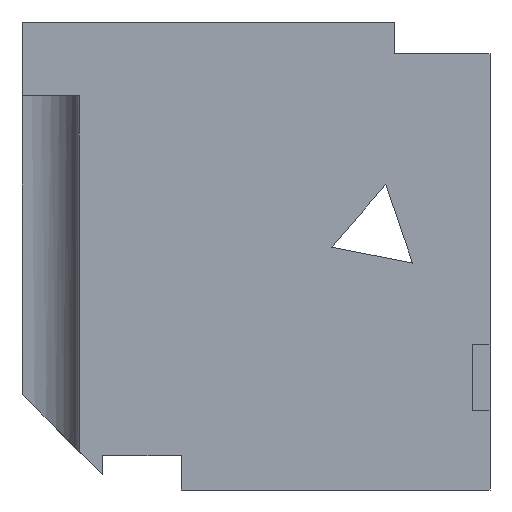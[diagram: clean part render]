
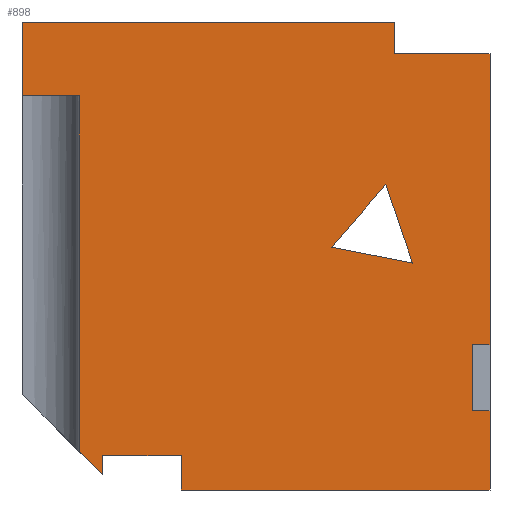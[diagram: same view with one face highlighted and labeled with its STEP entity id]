
A CAD part, front view. The second image highlights one B-rep face of the part: STEP entity #898.
In plain terms, the highlighted planar face has unit normal (0, -1, 0).
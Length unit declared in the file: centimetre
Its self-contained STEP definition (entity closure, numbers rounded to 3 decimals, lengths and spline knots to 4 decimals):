
#2 = CARTESIAN_POINT ( 'NONE',  ( 961.7942, 0., 310.3554 ) ) ;
#4 = CARTESIAN_POINT ( 'NONE',  ( 834.6252, 0., 484.993 ) ) ;
#31 = CARTESIAN_POINT ( 'NONE',  ( 0., 0., 204.8096 ) ) ;
#34 = DIRECTION ( 'NONE',  ( -0.656, 0., -0.754 ) ) ;
#37 = DIRECTION ( 'NONE',  ( 0.707, 0., -0.707 ) ) ;
#39 = CARTESIAN_POINT ( 'NONE',  ( 0., 0., 842.0141 ) ) ;
#44 = EDGE_CURVE ( 'NONE', #98, #866, #340, .T. ) ;
#53 = EDGE_CURVE ( 'NONE', #219, #1057, #792, .T. ) ;
#59 = VECTOR ( 'NONE', #169, 100. ) ;
#71 = LINE ( 'NONE', #512, #353 ) ;
#83 = FACE_BOUND ( 'NONE', #859, .T. ) ;
#98 = VERTEX_POINT ( 'NONE', #1025 ) ;
#100 = CARTESIAN_POINT ( 'NONE',  ( 0., 0., 1000. ) ) ;
#101 = EDGE_CURVE ( 'NONE', #1180, #519, #153, .T. ) ;
#107 = CARTESIAN_POINT ( 'NONE',  ( 0., 0., 1000. ) ) ;
#117 = EDGE_CURVE ( 'NONE', #773, #236, #474, .T. ) ;
#118 = ORIENTED_EDGE ( 'NONE', *, *, #546, .F. ) ;
#131 = VERTEX_POINT ( 'NONE', #2 ) ;
#135 = ORIENTED_EDGE ( 'NONE', *, *, #1302, .T. ) ;
#142 = CARTESIAN_POINT ( 'NONE',  ( 1000., 0., 0. ) ) ;
#153 = LINE ( 'NONE', #915, #1028 ) ;
#159 = VERTEX_POINT ( 'NONE', #107 ) ;
#169 = DIRECTION ( 'NONE',  ( 0., 0., -1. ) ) ;
#174 = LINE ( 'NONE', #1193, #221 ) ;
#183 = EDGE_CURVE ( 'NONE', #885, #611, #529, .T. ) ;
#193 = VECTOR ( 'NONE', #218, 100. ) ;
#218 = DIRECTION ( 'NONE',  ( 0., 0., -1. ) ) ;
#219 = VERTEX_POINT ( 'NONE', #760 ) ;
#221 = VECTOR ( 'NONE', #1396, 100. ) ;
#222 = CARTESIAN_POINT ( 'NONE',  ( 0., 0., 1000. ) ) ;
#235 = DIRECTION ( 'NONE',  ( -0.325, 0., 0.946 ) ) ;
#236 = VERTEX_POINT ( 'NONE', #1212 ) ;
#252 = LINE ( 'NONE', #31, #616 ) ;
#258 = DIRECTION ( 'NONE',  ( 0., 0., -1. ) ) ;
#317 = LINE ( 'NONE', #1207, #445 ) ;
#318 = EDGE_CURVE ( 'NONE', #611, #722, #1347, .T. ) ;
#340 = LINE ( 'NONE', #786, #486 ) ;
#342 = CARTESIAN_POINT ( 'NONE',  ( 961.7942, 0., 310.3554 ) ) ;
#344 = EDGE_CURVE ( 'NONE', #456, #131, #1356, .T. ) ;
#347 = DIRECTION ( 'NONE',  ( 1., 0., 0. ) ) ;
#353 = VECTOR ( 'NONE', #958, 100. ) ;
#368 = EDGE_CURVE ( 'NONE', #1297, #1040, #252, .T. ) ;
#374 = ORIENTED_EDGE ( 'NONE', *, *, #183, .T. ) ;
#383 = LINE ( 'NONE', #717, #964 ) ;
#410 = EDGE_LOOP ( 'NONE', ( #1058, #1395, #374, #893, #1235, #827, #504, #1194, #950, #1290, #713, #1368, #118, #925, #966, #135 ) ) ;
#412 = EDGE_CURVE ( 'NONE', #722, #946, #944, .T. ) ;
#414 = CARTESIAN_POINT ( 'NONE',  ( 1000., 0., 169.1024 ) ) ;
#424 = PLANE ( 'NONE',  #868 ) ;
#445 = VECTOR ( 'NONE', #1219, 100. ) ;
#456 = VERTEX_POINT ( 'NONE', #612 ) ;
#462 = EDGE_CURVE ( 'NONE', #953, #456, #174, .T. ) ;
#474 = LINE ( 'NONE', #922, #193 ) ;
#478 = DIRECTION ( 'NONE',  ( 0., 0., -1. ) ) ;
#486 = VECTOR ( 'NONE', #347, 100. ) ;
#490 = DIRECTION ( 'NONE',  ( 0.982, 0., -0.191 ) ) ;
#504 = ORIENTED_EDGE ( 'NONE', *, *, #44, .F. ) ;
#510 = CARTESIAN_POINT ( 'NONE',  ( 172.2325, 0., 0. ) ) ;
#512 = CARTESIAN_POINT ( 'NONE',  ( 0., 0., 1000. ) ) ;
#519 = VERTEX_POINT ( 'NONE', #738 ) ;
#529 = LINE ( 'NONE', #976, #965 ) ;
#546 = EDGE_CURVE ( 'NONE', #159, #773, #71, .T. ) ;
#559 = CARTESIAN_POINT ( 'NONE',  ( 172.2325, 0., 32.5771 ) ) ;
#562 = EDGE_CURVE ( 'NONE', #159, #1057, #1101, .T. ) ;
#590 = VECTOR ( 'NONE', #758, 100. ) ;
#598 = CARTESIAN_POINT ( 'NONE',  ( 796.13, 0., 1000. ) ) ;
#605 = LINE ( 'NONE', #1051, #664 ) ;
#611 = VERTEX_POINT ( 'NONE', #980 ) ;
#612 = CARTESIAN_POINT ( 'NONE',  ( 1000., 0., 310.3554 ) ) ;
#616 = VECTOR ( 'NONE', #37, 100. ) ;
#663 = ORIENTED_EDGE ( 'NONE', *, *, #1102, .F. ) ;
#664 = VECTOR ( 'NONE', #490, 100. ) ;
#670 = EDGE_CURVE ( 'NONE', #866, #946, #383, .T. ) ;
#713 = ORIENTED_EDGE ( 'NONE', *, *, #825, .F. ) ;
#717 = CARTESIAN_POINT ( 'NONE',  ( 1000., 0., 1000. ) ) ;
#722 = VERTEX_POINT ( 'NONE', #1375 ) ;
#738 = CARTESIAN_POINT ( 'NONE',  ( 661.3159, 0., 518.7766 ) ) ;
#743 = LINE ( 'NONE', #510, #844 ) ;
#748 = DIRECTION ( 'NONE',  ( 0., 0., 1. ) ) ;
#752 = VECTOR ( 'NONE', #805, 100. ) ;
#758 = DIRECTION ( 'NONE',  ( 0., 0., -1. ) ) ;
#760 = CARTESIAN_POINT ( 'NONE',  ( 122.5717, 0., 842.0141 ) ) ;
#773 = VERTEX_POINT ( 'NONE', #598 ) ;
#786 = CARTESIAN_POINT ( 'NONE',  ( 961.7942, 0., 169.1024 ) ) ;
#792 = LINE ( 'NONE', #1238, #752 ) ;
#804 = CARTESIAN_POINT ( 'NONE',  ( 1000., 0., 932.2743 ) ) ;
#805 = DIRECTION ( 'NONE',  ( -1., 0., 0. ) ) ;
#821 = CARTESIAN_POINT ( 'NONE',  ( 122.5717, 0., 842.0141 ) ) ;
#825 = EDGE_CURVE ( 'NONE', #236, #953, #317, .T. ) ;
#827 = ORIENTED_EDGE ( 'NONE', *, *, #670, .F. ) ;
#828 = LINE ( 'NONE', #929, #912 ) ;
#830 = CARTESIAN_POINT ( 'NONE',  ( 122.5717, 0., 82.2379 ) ) ;
#844 = VECTOR ( 'NONE', #1401, 100. ) ;
#859 = EDGE_LOOP ( 'NONE', ( #1373, #1273, #663 ) ) ;
#866 = VERTEX_POINT ( 'NONE', #414 ) ;
#867 = VECTOR ( 'NONE', #1177, 100. ) ;
#868 = AXIS2_PLACEMENT_3D ( 'NONE', #222, #1310, #748 ) ;
#885 = VERTEX_POINT ( 'NONE', #992 ) ;
#886 = LINE ( 'NONE', #4, #1156 ) ;
#893 = ORIENTED_EDGE ( 'NONE', *, *, #318, .T. ) ;
#898 = ADVANCED_FACE ( 'NONE', ( #1322, #83 ), #424, .F. ) ;
#912 = VECTOR ( 'NONE', #258, 100. ) ;
#915 = CARTESIAN_POINT ( 'NONE',  ( 777.228, 0., 651.975 ) ) ;
#922 = CARTESIAN_POINT ( 'NONE',  ( 796.13, 0., 932.2743 ) ) ;
#925 = ORIENTED_EDGE ( 'NONE', *, *, #562, .T. ) ;
#929 = CARTESIAN_POINT ( 'NONE',  ( 961.7942, 0., 169.1024 ) ) ;
#939 = VECTOR ( 'NONE', #478, 100. ) ;
#944 = LINE ( 'NONE', #1271, #867 ) ;
#946 = VERTEX_POINT ( 'NONE', #142 ) ;
#950 = ORIENTED_EDGE ( 'NONE', *, *, #344, .F. ) ;
#953 = VERTEX_POINT ( 'NONE', #804 ) ;
#955 = DIRECTION ( 'NONE',  ( 0., 0., -1. ) ) ;
#958 = DIRECTION ( 'NONE',  ( 1., 0., 0. ) ) ;
#964 = VECTOR ( 'NONE', #955, 100. ) ;
#965 = VECTOR ( 'NONE', #1424, 100. ) ;
#966 = ORIENTED_EDGE ( 'NONE', *, *, #53, .F. ) ;
#972 = VERTEX_POINT ( 'NONE', #1125 ) ;
#976 = CARTESIAN_POINT ( 'NONE',  ( 172.2325, 0., 73.5071 ) ) ;
#980 = CARTESIAN_POINT ( 'NONE',  ( 340.3751, 0., 73.5071 ) ) ;
#992 = CARTESIAN_POINT ( 'NONE',  ( 172.2325, 0., 73.5071 ) ) ;
#1025 = CARTESIAN_POINT ( 'NONE',  ( 961.7942, 0., 169.1024 ) ) ;
#1028 = VECTOR ( 'NONE', #34, 100. ) ;
#1040 = VERTEX_POINT ( 'NONE', #559 ) ;
#1044 = EDGE_CURVE ( 'NONE', #972, #1180, #886, .T. ) ;
#1051 = CARTESIAN_POINT ( 'NONE',  ( 661.3159, 0., 518.7766 ) ) ;
#1053 = LINE ( 'NONE', #821, #59 ) ;
#1057 = VERTEX_POINT ( 'NONE', #39 ) ;
#1058 = ORIENTED_EDGE ( 'NONE', *, *, #368, .T. ) ;
#1066 = EDGE_CURVE ( 'NONE', #131, #98, #828, .T. ) ;
#1085 = VECTOR ( 'NONE', #1256, 100. ) ;
#1101 = LINE ( 'NONE', #100, #590 ) ;
#1102 = EDGE_CURVE ( 'NONE', #519, #972, #605, .T. ) ;
#1121 = CARTESIAN_POINT ( 'NONE',  ( 777.228, 0., 651.975 ) ) ;
#1125 = CARTESIAN_POINT ( 'NONE',  ( 834.6252, 0., 484.993 ) ) ;
#1156 = VECTOR ( 'NONE', #235, 100. ) ;
#1177 = DIRECTION ( 'NONE',  ( 1., 0., 0. ) ) ;
#1180 = VERTEX_POINT ( 'NONE', #1121 ) ;
#1193 = CARTESIAN_POINT ( 'NONE',  ( 1000., 0., 1000. ) ) ;
#1194 = ORIENTED_EDGE ( 'NONE', *, *, #1066, .F. ) ;
#1207 = CARTESIAN_POINT ( 'NONE',  ( 796.13, 0., 932.2743 ) ) ;
#1212 = CARTESIAN_POINT ( 'NONE',  ( 796.13, 0., 932.2743 ) ) ;
#1219 = DIRECTION ( 'NONE',  ( 1., 0., 0. ) ) ;
#1235 = ORIENTED_EDGE ( 'NONE', *, *, #412, .T. ) ;
#1238 = CARTESIAN_POINT ( 'NONE',  ( 0., 0., 842.0141 ) ) ;
#1250 = CARTESIAN_POINT ( 'NONE',  ( 340.3751, 0., 0. ) ) ;
#1256 = DIRECTION ( 'NONE',  ( -1., 0., 0. ) ) ;
#1271 = CARTESIAN_POINT ( 'NONE',  ( 0., 0., 0. ) ) ;
#1273 = ORIENTED_EDGE ( 'NONE', *, *, #1044, .F. ) ;
#1290 = ORIENTED_EDGE ( 'NONE', *, *, #462, .F. ) ;
#1297 = VERTEX_POINT ( 'NONE', #830 ) ;
#1302 = EDGE_CURVE ( 'NONE', #219, #1297, #1053, .T. ) ;
#1310 = DIRECTION ( 'NONE',  ( 0., 1., 0. ) ) ;
#1322 = FACE_OUTER_BOUND ( 'NONE', #410, .T. ) ;
#1347 = LINE ( 'NONE', #1250, #939 ) ;
#1356 = LINE ( 'NONE', #342, #1085 ) ;
#1368 = ORIENTED_EDGE ( 'NONE', *, *, #117, .F. ) ;
#1373 = ORIENTED_EDGE ( 'NONE', *, *, #101, .F. ) ;
#1375 = CARTESIAN_POINT ( 'NONE',  ( 340.3751, 0., 0. ) ) ;
#1395 = ORIENTED_EDGE ( 'NONE', *, *, #1403, .T. ) ;
#1396 = DIRECTION ( 'NONE',  ( 0., 0., -1. ) ) ;
#1401 = DIRECTION ( 'NONE',  ( 0., 0., 1. ) ) ;
#1403 = EDGE_CURVE ( 'NONE', #1040, #885, #743, .T. ) ;
#1424 = DIRECTION ( 'NONE',  ( 1., 0., 0. ) ) ;
